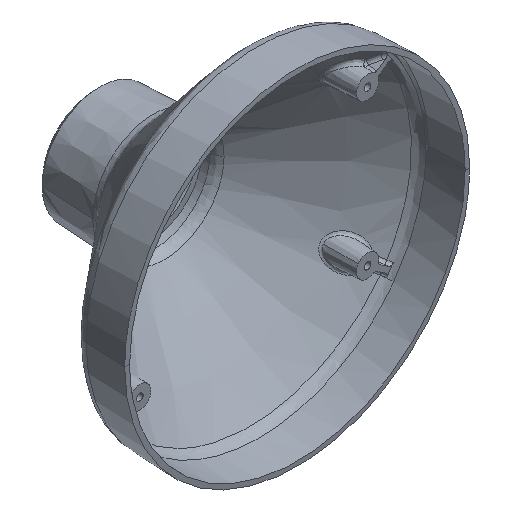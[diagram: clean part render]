
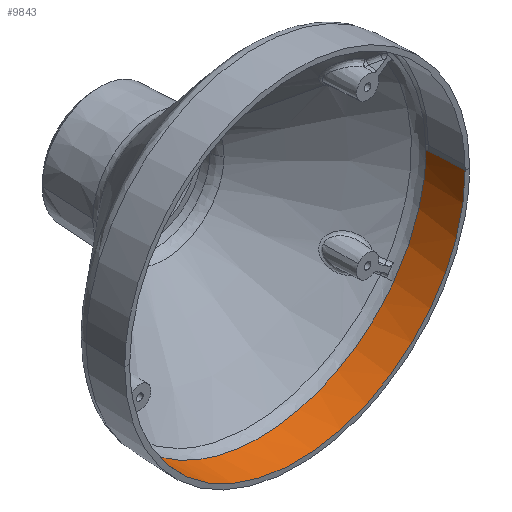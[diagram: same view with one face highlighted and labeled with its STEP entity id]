
A CAD part, isometric view. The second image highlights one B-rep face of the part: STEP entity #9843.
In plain terms, the highlighted conical face has half-angle 2 degrees and reference radius 80.265 mm.
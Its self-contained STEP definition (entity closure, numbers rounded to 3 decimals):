
#187 = CARTESIAN_POINT ( 'NONE',  ( 79.633, -53.589, -3.418 ) ) ;
#237 = VERTEX_POINT ( 'NONE', #4271 ) ;
#373 = CARTESIAN_POINT ( 'NONE',  ( 40.225, -71.708, -69.657 ) ) ;
#427 = CARTESIAN_POINT ( 'NONE',  ( 60.231, -53.589, -52.517 ) ) ;
#445 = ORIENTED_EDGE ( 'NONE', *, *, #10143, .F. ) ;
#508 = CARTESIAN_POINT ( 'NONE',  ( 0., -71.708, 0. ) ) ;
#556 = CARTESIAN_POINT ( 'NONE',  ( 13.812, -53.589, -79.237 ) ) ;
#561 = CARTESIAN_POINT ( 'NONE',  ( 20.811, -71.708, -77.698 ) ) ;
#654 = B_SPLINE_CURVE_WITH_KNOTS ( 'NONE', 3,
 ( #6520, #10358, #1676, #9223 ),
 .UNSPECIFIED., .F., .F.,
 ( 4, 4 ),
 ( -1., 0. ),
 .UNSPECIFIED. ) ;
#865 = CARTESIAN_POINT ( 'NONE',  ( -69.657, -71.708, -40.225 ) ) ;
#923 = CARTESIAN_POINT ( 'NONE',  ( -79.748, -71.708, -10.507 ) ) ;
#1134 = CARTESIAN_POINT ( 'NONE',  ( 77.462, -53.589, -20.215 ) ) ;
#1382 = CARTESIAN_POINT ( 'NONE',  ( -53.042, -71.708, -60.471 ) ) ;
#1417 = EDGE_CURVE ( 'NONE', #11488, #7139, #9696, .T. ) ;
#1509 = CARTESIAN_POINT ( 'NONE',  ( -31.573, -53.589, -73.976 ) ) ;
#1544 = CARTESIAN_POINT ( 'NONE',  ( 80.265, -71.708, 0. ) ) ;
#1636 = CARTESIAN_POINT ( 'NONE',  ( -66.769, -53.589, -44.846 ) ) ;
#1676 = CARTESIAN_POINT ( 'NONE',  ( -79.844, -59.629, 0. ) ) ;
#1733 = EDGE_CURVE ( 'NONE', #7139, #11276, #6330, .T. ) ;
#1971 = CARTESIAN_POINT ( 'NONE',  ( 68.13, -53.589, -41.764 ) ) ;
#2098 = CARTESIAN_POINT ( 'NONE',  ( 64.181, -53.589, -47.14 ) ) ;
#2470 = CARTESIAN_POINT ( 'NONE',  ( -61.145, -53.589, -52.256 ) ) ;
#2475 = CARTESIAN_POINT ( 'NONE',  ( 69.657, -71.708, -40.225 ) ) ;
#2548 = CARTESIAN_POINT ( 'NONE',  ( -25.863, -71.708, -76.166 ) ) ;
#2858 = CARTESIAN_POINT ( 'NONE',  ( -80.265, -71.708, 0. ) ) ;
#2940 = CARTESIAN_POINT ( 'NONE',  ( 79.633, -53.589, 0. ) ) ;
#3271 = AXIS2_PLACEMENT_3D ( 'NONE', #508, #4442, #4313 ) ;
#3326 = CARTESIAN_POINT ( 'NONE',  ( -20.811, -71.708, -77.698 ) ) ;
#3522 = CARTESIAN_POINT ( 'NONE',  ( 5.253, -71.708, -80.265 ) ) ;
#3576 = CARTESIAN_POINT ( 'NONE',  ( 50.701, -53.589, -61.951 ) ) ;
#3583 = CARTESIAN_POINT ( 'NONE',  ( 76.166, -71.708, -25.863 ) ) ;
#3666 = CARTESIAN_POINT ( 'NONE',  ( 80.265, -71.708, 0. ) ) ;
#4271 = CARTESIAN_POINT ( 'NONE',  ( 64.181, -53.589, -47.14 ) ) ;
#4298 = CARTESIAN_POINT ( 'NONE',  ( 35.57, -71.708, -72.145 ) ) ;
#4313 = DIRECTION ( 'NONE',  ( 1., 0., 0. ) ) ;
#4379 = B_SPLINE_CURVE_WITH_KNOTS ( 'NONE', 5,
 ( #4556, #11289, #6414, #11413, #9490, #1636, #2470, #10318, #1509, #5317, #9246, #556, #11225, #8479, #3576, #12327, #427, #5444 ),
 .UNSPECIFIED., .F., .F.,
 ( 6, 3, 3, 3, 3, 6 ),
 ( 0., 0.144, 0.374, 0.603, 0.833, 1. ),
 .UNSPECIFIED. ) ;
#4442 = DIRECTION ( 'NONE',  ( 0., -1., 0. ) ) ;
#4493 = CARTESIAN_POINT ( 'NONE',  ( 10.507, -71.708, -79.748 ) ) ;
#4510 = FACE_OUTER_BOUND ( 'NONE', #8499, .T. ) ;
#4556 = CARTESIAN_POINT ( 'NONE',  ( -79.633, -53.589, 0. ) ) ;
#4736 = CARTESIAN_POINT ( 'NONE',  ( -77.698, -71.708, -20.811 ) ) ;
#5317 = CARTESIAN_POINT ( 'NONE',  ( -22.82, -53.589, -77.127 ) ) ;
#5444 = CARTESIAN_POINT ( 'NONE',  ( 64.181, -53.589, -47.14 ) ) ;
#5449 = CARTESIAN_POINT ( 'NONE',  ( 63.82, -71.708, -48.961 ) ) ;
#5511 = CARTESIAN_POINT ( 'NONE',  ( 72.145, -71.708, -35.57 ) ) ;
#5898 = CARTESIAN_POINT ( 'NONE',  ( 71.516, -53.589, -35.973 ) ) ;
#6067 = EDGE_CURVE ( 'NONE', #11276, #12541, #654, .T. ) ;
#6230 = B_SPLINE_CURVE_WITH_KNOTS ( 'NONE', 5,
 ( #2098, #1971, #5898, #9954, #1134, #8998, #10014, #187, #2940 ),
 .UNSPECIFIED., .F., .F.,
 ( 6, 3, 6 ),
 ( 0., 0.661, 1. ),
 .UNSPECIFIED. ) ;
#6330 = B_SPLINE_CURVE_WITH_KNOTS ( 'NONE', 3,
 ( #12332, #7396, #12385, #11294, #3583, #5511, #2475, #5449, #6420, #6486, #9374, #373, #4298, #8235, #561, #4493, #3522, #7522, #11358, #3326, #2548, #11165, #10192, #10385, #1382, #12196, #6545, #865, #6676, #9738, #4736, #923, #11417, #2858 ),
 .UNSPECIFIED., .F., .F.,
 ( 4, 2, 2, 2, 2, 2, 2, 2, 2, 2, 2, 2, 2, 2, 2, 2, 4 ),
 ( 0., 0.063, 0.125, 0.188, 0.25, 0.312, 0.375, 0.438, 0.5, 0.563, 0.625, 0.688, 0.75, 0.813, 0.875, 0.938, 1. ),
 .UNSPECIFIED. ) ;
#6414 = CARTESIAN_POINT ( 'NONE',  ( -79.113, -53.589, -11.51 ) ) ;
#6420 = CARTESIAN_POINT ( 'NONE',  ( 60.471, -71.708, -53.042 ) ) ;
#6448 = CARTESIAN_POINT ( 'NONE',  ( 79.633, -53.589, 0. ) ) ;
#6486 = CARTESIAN_POINT ( 'NONE',  ( 53.042, -71.708, -60.471 ) ) ;
#6520 = CARTESIAN_POINT ( 'NONE',  ( -80.265, -71.708, 0. ) ) ;
#6545 = CARTESIAN_POINT ( 'NONE',  ( -63.82, -71.708, -48.961 ) ) ;
#6676 = CARTESIAN_POINT ( 'NONE',  ( -72.145, -71.708, -35.57 ) ) ;
#6747 = ORIENTED_EDGE ( 'NONE', *, *, #6067, .F. ) ;
#6925 = ORIENTED_EDGE ( 'NONE', *, *, #1733, .F. ) ;
#7139 = VERTEX_POINT ( 'NONE', #3666 ) ;
#7332 = CARTESIAN_POINT ( 'NONE',  ( 79.633, -53.589, 0. ) ) ;
#7396 = CARTESIAN_POINT ( 'NONE',  ( 80.265, -71.708, -5.253 ) ) ;
#7522 = CARTESIAN_POINT ( 'NONE',  ( -5.253, -71.708, -80.265 ) ) ;
#8235 = CARTESIAN_POINT ( 'NONE',  ( 25.863, -71.708, -76.166 ) ) ;
#8479 = CARTESIAN_POINT ( 'NONE',  ( 37.761, -53.589, -71.243 ) ) ;
#8499 = EDGE_LOOP ( 'NONE', ( #6747, #6925, #9697, #445, #10593 ) ) ;
#8573 = CARTESIAN_POINT ( 'NONE',  ( 79.844, -59.629, 0. ) ) ;
#8998 = CARTESIAN_POINT ( 'NONE',  ( 79.082, -53.589, -10.242 ) ) ;
#9223 = CARTESIAN_POINT ( 'NONE',  ( -79.633, -53.589, 0. ) ) ;
#9246 = CARTESIAN_POINT ( 'NONE',  ( -4.656, -53.589, -80.819 ) ) ;
#9374 = CARTESIAN_POINT ( 'NONE',  ( 48.961, -71.708, -63.82 ) ) ;
#9490 = CARTESIAN_POINT ( 'NONE',  ( -74.057, -53.589, -31.642 ) ) ;
#9657 = CARTESIAN_POINT ( 'NONE',  ( -79.633, -53.589, 0. ) ) ;
#9696 = B_SPLINE_CURVE_WITH_KNOTS ( 'NONE', 3,
 ( #6448, #8573, #10285, #1544 ),
 .UNSPECIFIED., .F., .F.,
 ( 4, 4 ),
 ( -1., 0. ),
 .UNSPECIFIED. ) ;
#9697 = ORIENTED_EDGE ( 'NONE', *, *, #1417, .F. ) ;
#9738 = CARTESIAN_POINT ( 'NONE',  ( -76.166, -71.708, -25.863 ) ) ;
#9843 = ADVANCED_FACE ( 'NONE', ( #4510 ), #12307, .F. ) ;
#9954 = CARTESIAN_POINT ( 'NONE',  ( 74.281, -53.589, -29.848 ) ) ;
#10014 = CARTESIAN_POINT ( 'NONE',  ( 79.449, -53.589, -6.837 ) ) ;
#10143 = EDGE_CURVE ( 'NONE', #237, #11488, #6230, .T. ) ;
#10192 = CARTESIAN_POINT ( 'NONE',  ( -40.225, -71.708, -69.657 ) ) ;
#10285 = CARTESIAN_POINT ( 'NONE',  ( 80.054, -65.668, 0. ) ) ;
#10318 = CARTESIAN_POINT ( 'NONE',  ( -47.922, -53.589, -65.245 ) ) ;
#10358 = CARTESIAN_POINT ( 'NONE',  ( -80.054, -65.668, 0. ) ) ;
#10385 = CARTESIAN_POINT ( 'NONE',  ( -48.961, -71.708, -63.82 ) ) ;
#10593 = ORIENTED_EDGE ( 'NONE', *, *, #10687, .F. ) ;
#10687 = EDGE_CURVE ( 'NONE', #12541, #237, #4379, .T. ) ;
#11165 = CARTESIAN_POINT ( 'NONE',  ( -35.57, -71.708, -72.145 ) ) ;
#11225 = CARTESIAN_POINT ( 'NONE',  ( 22.868, -53.589, -77.113 ) ) ;
#11276 = VERTEX_POINT ( 'NONE', #12090 ) ;
#11289 = CARTESIAN_POINT ( 'NONE',  ( -79.633, -53.589, -5.755 ) ) ;
#11294 = CARTESIAN_POINT ( 'NONE',  ( 77.698, -71.708, -20.811 ) ) ;
#11358 = CARTESIAN_POINT ( 'NONE',  ( -10.507, -71.708, -79.748 ) ) ;
#11413 = CARTESIAN_POINT ( 'NONE',  ( -78.073, -53.589, -17.202 ) ) ;
#11417 = CARTESIAN_POINT ( 'NONE',  ( -80.265, -71.708, -5.253 ) ) ;
#11488 = VERTEX_POINT ( 'NONE', #7332 ) ;
#12090 = CARTESIAN_POINT ( 'NONE',  ( -80.265, -71.708, 0. ) ) ;
#12196 = CARTESIAN_POINT ( 'NONE',  ( -60.471, -71.708, -53.042 ) ) ;
#12307 = CONICAL_SURFACE ( 'NONE', #3271, 80.265, 0.035 ) ;
#12327 = CARTESIAN_POINT ( 'NONE',  ( 55.719, -53.589, -57.48 ) ) ;
#12332 = CARTESIAN_POINT ( 'NONE',  ( 80.265, -71.708, 0. ) ) ;
#12385 = CARTESIAN_POINT ( 'NONE',  ( 79.748, -71.708, -10.507 ) ) ;
#12541 = VERTEX_POINT ( 'NONE', #9657 ) ;
